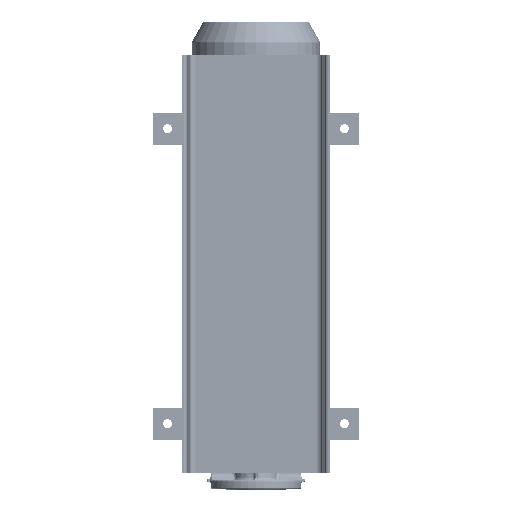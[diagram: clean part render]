
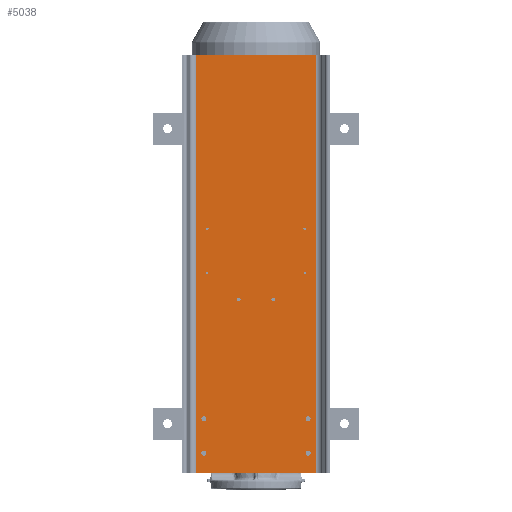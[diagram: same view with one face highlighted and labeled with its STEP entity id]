
A CAD part, left-side view. The second image highlights one B-rep face of the part: STEP entity #5038.
In plain terms, the highlighted planar face has unit normal (-1, 0, 0) as drawn and (0, -1, 0) by its records, which use the part's own axes.
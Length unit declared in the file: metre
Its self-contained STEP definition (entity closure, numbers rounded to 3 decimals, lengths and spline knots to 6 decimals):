
#5038=ADVANCED_FACE('0:34522',(#13912,#13913,#13914,#13915,#13916,#13917,#13918,#13919,#13920,#13921,#13922),#13923,.T.);
#13912=FACE_OUTER_BOUND('',#76546,.T.);
#13913=FACE_BOUND('',#76547,.T.);
#13914=FACE_BOUND('',#76548,.T.);
#13915=FACE_BOUND('',#76549,.T.);
#13916=FACE_BOUND('',#76550,.T.);
#13917=FACE_BOUND('',#76551,.T.);
#13918=FACE_BOUND('',#76552,.T.);
#13919=FACE_BOUND('',#76553,.T.);
#13920=FACE_BOUND('',#76554,.T.);
#13921=FACE_BOUND('',#76555,.T.);
#13922=FACE_BOUND('',#76556,.T.);
#13923=PLANE('',#76557);
#76546=EDGE_LOOP('',(#114722,#114723,#114724,#114725));
#76547=EDGE_LOOP('',(#114726,#114727));
#76548=EDGE_LOOP('',(#114728,#114729));
#76549=EDGE_LOOP('',(#114730,#114731));
#76550=EDGE_LOOP('',(#114732,#114733));
#76551=EDGE_LOOP('',(#114734,#114735));
#76552=EDGE_LOOP('',(#114736,#114737));
#76553=EDGE_LOOP('',(#114738,#114739));
#76554=EDGE_LOOP('',(#114740,#114741));
#76555=EDGE_LOOP('',(#114742,#114743));
#76556=EDGE_LOOP('',(#114744,#114745));
#76557=AXIS2_PLACEMENT_3D('',#114746,#114747,#114748);
#114722=ORIENTED_EDGE('',*,*,#146058,.T.);
#114723=ORIENTED_EDGE('',*,*,#146059,.T.);
#114724=ORIENTED_EDGE('',*,*,#146060,.F.);
#114725=ORIENTED_EDGE('',*,*,#145964,.F.);
#114726=ORIENTED_EDGE('',*,*,#145943,.T.);
#114727=ORIENTED_EDGE('',*,*,#146061,.T.);
#114728=ORIENTED_EDGE('',*,*,#145939,.T.);
#114729=ORIENTED_EDGE('',*,*,#146062,.T.);
#114730=ORIENTED_EDGE('',*,*,#145933,.F.);
#114731=ORIENTED_EDGE('',*,*,#146063,.F.);
#114732=ORIENTED_EDGE('',*,*,#145929,.F.);
#114733=ORIENTED_EDGE('',*,*,#146064,.F.);
#114734=ORIENTED_EDGE('',*,*,#145911,.T.);
#114735=ORIENTED_EDGE('',*,*,#146065,.T.);
#114736=ORIENTED_EDGE('',*,*,#145905,.F.);
#114737=ORIENTED_EDGE('',*,*,#146066,.F.);
#114738=ORIENTED_EDGE('',*,*,#145903,.T.);
#114739=ORIENTED_EDGE('',*,*,#146067,.T.);
#114740=ORIENTED_EDGE('',*,*,#145899,.T.);
#114741=ORIENTED_EDGE('',*,*,#146068,.T.);
#114742=ORIENTED_EDGE('',*,*,#145895,.T.);
#114743=ORIENTED_EDGE('',*,*,#146069,.T.);
#114744=ORIENTED_EDGE('',*,*,#145891,.T.);
#114745=ORIENTED_EDGE('',*,*,#146070,.T.);
#114746=CARTESIAN_POINT('',(-0.121745,-0.0095,0.4));
#114747=DIRECTION('',(0.0,-1.0,0.0));
#114748=DIRECTION('',(0.0,0.0,-1.0));
#145891=EDGE_CURVE('0:35277',#166049,#166053,#166055,.T.);
#145895=EDGE_CURVE('0:35274',#166057,#166061,#166063,.T.);
#145899=EDGE_CURVE('0:35271',#166065,#166069,#166071,.T.);
#145903=EDGE_CURVE('0:35268',#166073,#166077,#166079,.T.);
#145905=EDGE_CURVE('0:35265',#166080,#166083,#166084,.T.);
#145911=EDGE_CURVE('0:35262',#166089,#166093,#166095,.T.);
#145929=EDGE_CURVE('0:35259',#166128,#166131,#166132,.T.);
#145933=EDGE_CURVE('0:35256',#166136,#166139,#166140,.T.);
#145939=EDGE_CURVE('0:35253',#166145,#166149,#166151,.T.);
#145943=EDGE_CURVE('0:35250',#166153,#166157,#166159,.T.);
#145964=EDGE_CURVE('0:34959',#166199,#166201,#166202,.T.);
#146058=EDGE_CURVE('0:35241',#166199,#166354,#166356,.T.);
#146059=EDGE_CURVE('0:35244',#166354,#166357,#166358,.T.);
#146060=EDGE_CURVE('0:35247',#166201,#166357,#166359,.T.);
#146061=EDGE_CURVE('0:35250',#166157,#166153,#166360,.T.);
#146062=EDGE_CURVE('0:35253',#166149,#166145,#166361,.T.);
#146063=EDGE_CURVE('0:35256',#166139,#166136,#166362,.T.);
#146064=EDGE_CURVE('0:35259',#166131,#166128,#166363,.T.);
#146065=EDGE_CURVE('0:35262',#166093,#166089,#166364,.T.);
#146066=EDGE_CURVE('0:35265',#166083,#166080,#166365,.T.);
#146067=EDGE_CURVE('0:35268',#166077,#166073,#166366,.T.);
#146068=EDGE_CURVE('0:35271',#166069,#166065,#166367,.T.);
#146069=EDGE_CURVE('0:35274',#166061,#166057,#166368,.T.);
#146070=EDGE_CURVE('0:35277',#166053,#166049,#166369,.T.);
#166049=VERTEX_POINT('',#216779);
#166053=VERTEX_POINT('',#216784);
#166055=CIRCLE('',#216787,0.0025);
#166057=VERTEX_POINT('',#216789);
#166061=VERTEX_POINT('',#216794);
#166063=CIRCLE('',#216797,0.0025);
#166065=VERTEX_POINT('',#216799);
#166069=VERTEX_POINT('',#216804);
#166071=CIRCLE('',#216807,0.0025);
#166073=VERTEX_POINT('',#216809);
#166077=VERTEX_POINT('',#216814);
#166079=CIRCLE('',#216817,0.0025);
#166080=VERTEX_POINT('',#216818);
#166083=VERTEX_POINT('',#216822);
#166084=CIRCLE('',#216823,0.0034);
#166089=VERTEX_POINT('',#216829);
#166093=VERTEX_POINT('',#216834);
#166095=CIRCLE('',#216837,0.0034);
#166128=VERTEX_POINT('',#216878);
#166131=VERTEX_POINT('',#216882);
#166132=CIRCLE('',#216883,0.0051);
#166136=VERTEX_POINT('',#216888);
#166139=VERTEX_POINT('',#216892);
#166140=CIRCLE('',#216893,0.0051);
#166145=VERTEX_POINT('',#216899);
#166149=VERTEX_POINT('',#216904);
#166151=CIRCLE('',#216907,0.0051);
#166153=VERTEX_POINT('',#216909);
#166157=VERTEX_POINT('',#216914);
#166159=CIRCLE('',#216917,0.0051);
#166199=VERTEX_POINT('',#216967);
#166201=VERTEX_POINT('',#216969);
#166202=LINE('',#216970,#216971);
#166354=VERTEX_POINT('',#217192);
#166356=LINE('',#217194,#217195);
#166357=VERTEX_POINT('',#217196);
#166358=LINE('',#217197,#217198);
#166359=LINE('',#217199,#217200);
#166360=CIRCLE('',#217201,0.0051);
#166361=CIRCLE('',#217202,0.0051);
#166362=CIRCLE('',#217203,0.0051);
#166363=CIRCLE('',#217204,0.0051);
#166364=CIRCLE('',#217205,0.0034);
#166365=CIRCLE('',#217206,0.0034);
#166366=CIRCLE('',#217207,0.0025);
#166367=CIRCLE('',#217208,0.0025);
#166368=CIRCLE('',#217209,0.0025);
#166369=CIRCLE('',#217210,0.0025);
#216779=CARTESIAN_POINT('',(-0.0965,-0.0095,-0.0965));
#216784=CARTESIAN_POINT('',(-0.1015,-0.0095,-0.0965));
#216787=AXIS2_PLACEMENT_3D('',#255366,#255367,#255368);
#216789=CARTESIAN_POINT('',(-0.0965,-0.0095,-0.0065));
#216794=CARTESIAN_POINT('',(-0.1015,-0.0095,-0.0065));
#216797=AXIS2_PLACEMENT_3D('',#255374,#255375,#255376);
#216799=CARTESIAN_POINT('',(0.1015,-0.0095,-0.0965));
#216804=CARTESIAN_POINT('',(0.0965,-0.0095,-0.0965));
#216807=AXIS2_PLACEMENT_3D('',#255382,#255383,#255384);
#216809=CARTESIAN_POINT('',(0.1015,-0.0095,-0.0065));
#216814=CARTESIAN_POINT('',(0.0965,-0.0095,-0.0065));
#216817=AXIS2_PLACEMENT_3D('',#255390,#255391,#255392);
#216818=CARTESIAN_POINT('',(-0.0384,-0.0095,0.0475));
#216822=CARTESIAN_POINT('',(-0.0316,-0.0095,0.0475));
#216823=AXIS2_PLACEMENT_3D('',#255394,#255395,#255396);
#216829=CARTESIAN_POINT('',(0.0384,-0.0095,0.0475));
#216834=CARTESIAN_POINT('',(0.0316,-0.0095,0.0475));
#216837=AXIS2_PLACEMENT_3D('',#255406,#255407,#255408);
#216878=CARTESIAN_POINT('',(-0.1111,-0.0095,0.29));
#216882=CARTESIAN_POINT('',(-0.1009,-0.0095,0.29));
#216883=AXIS2_PLACEMENT_3D('',#255442,#255443,#255444);
#216888=CARTESIAN_POINT('',(-0.1111,-0.0095,0.36));
#216892=CARTESIAN_POINT('',(-0.1009,-0.0095,0.36));
#216893=AXIS2_PLACEMENT_3D('',#255450,#255451,#255452);
#216899=CARTESIAN_POINT('',(0.1111,-0.0095,0.29));
#216904=CARTESIAN_POINT('',(0.1009,-0.0095,0.29));
#216907=AXIS2_PLACEMENT_3D('',#255462,#255463,#255464);
#216909=CARTESIAN_POINT('',(0.1111,-0.0095,0.36));
#216914=CARTESIAN_POINT('',(0.1009,-0.0095,0.36));
#216917=AXIS2_PLACEMENT_3D('',#255470,#255471,#255472);
#216967=CARTESIAN_POINT('',(-0.121745,-0.0095,0.4));
#216969=CARTESIAN_POINT('',(0.121745,-0.0095,0.4));
#216970=CARTESIAN_POINT('',(-0.121745,-0.0095,0.4));
#216971=VECTOR('',#255513,0.243491);
#217192=CARTESIAN_POINT('',(-0.121745,-0.0095,-0.45));
#217194=CARTESIAN_POINT('',(-0.121745,-0.0095,0.4));
#217195=VECTOR('',#255655,0.85);
#217196=CARTESIAN_POINT('',(0.121745,-0.0095,-0.45));
#217197=CARTESIAN_POINT('',(-0.121745,-0.0095,-0.45));
#217198=VECTOR('',#255656,0.243491);
#217199=CARTESIAN_POINT('',(0.121745,-0.0095,0.4));
#217200=VECTOR('',#255657,0.85);
#217201=AXIS2_PLACEMENT_3D('',#255658,#255659,#255660);
#217202=AXIS2_PLACEMENT_3D('',#255661,#255662,#255663);
#217203=AXIS2_PLACEMENT_3D('',#255664,#255665,#255666);
#217204=AXIS2_PLACEMENT_3D('',#255667,#255668,#255669);
#217205=AXIS2_PLACEMENT_3D('',#255670,#255671,#255672);
#217206=AXIS2_PLACEMENT_3D('',#255673,#255674,#255675);
#217207=AXIS2_PLACEMENT_3D('',#255676,#255677,#255678);
#217208=AXIS2_PLACEMENT_3D('',#255679,#255680,#255681);
#217209=AXIS2_PLACEMENT_3D('',#255682,#255683,#255684);
#217210=AXIS2_PLACEMENT_3D('',#255685,#255686,#255687);
#255366=CARTESIAN_POINT('',(-0.099,-0.0095,-0.0965));
#255367=DIRECTION('',(-0.0,1.0,0.0));
#255368=DIRECTION('',(1.0,0.0,0.0));
#255374=CARTESIAN_POINT('',(-0.099,-0.0095,-0.0065));
#255375=DIRECTION('',(-0.0,1.0,0.0));
#255376=DIRECTION('',(1.0,0.0,0.0));
#255382=CARTESIAN_POINT('',(0.099,-0.0095,-0.0965));
#255383=DIRECTION('',(-0.0,1.0,0.0));
#255384=DIRECTION('',(1.0,0.0,0.0));
#255390=CARTESIAN_POINT('',(0.099,-0.0095,-0.0065));
#255391=DIRECTION('',(-0.0,1.0,0.0));
#255392=DIRECTION('',(1.0,0.0,0.0));
#255394=CARTESIAN_POINT('',(-0.035,-0.0095,0.0475));
#255395=DIRECTION('',(0.0,-1.0,0.0));
#255396=DIRECTION('',(-1.0,0.0,0.0));
#255406=CARTESIAN_POINT('',(0.035,-0.0095,0.0475));
#255407=DIRECTION('',(-0.0,1.0,0.0));
#255408=DIRECTION('',(1.0,0.0,0.0));
#255442=CARTESIAN_POINT('',(-0.106,-0.0095,0.29));
#255443=DIRECTION('',(0.0,-1.0,0.0));
#255444=DIRECTION('',(-1.0,0.0,0.0));
#255450=CARTESIAN_POINT('',(-0.106,-0.0095,0.36));
#255451=DIRECTION('',(0.0,-1.0,0.0));
#255452=DIRECTION('',(-1.0,0.0,0.0));
#255462=CARTESIAN_POINT('',(0.106,-0.0095,0.29));
#255463=DIRECTION('',(-0.0,1.0,0.0));
#255464=DIRECTION('',(1.0,0.0,0.0));
#255470=CARTESIAN_POINT('',(0.106,-0.0095,0.36));
#255471=DIRECTION('',(-0.0,1.0,0.0));
#255472=DIRECTION('',(1.0,0.0,0.0));
#255513=DIRECTION('',(1.0,0.0,0.0));
#255655=DIRECTION('',(0.0,0.0,-1.0));
#255656=DIRECTION('',(1.0,0.0,0.0));
#255657=DIRECTION('',(0.0,0.0,-1.0));
#255658=CARTESIAN_POINT('',(0.106,-0.0095,0.36));
#255659=DIRECTION('',(-0.0,1.0,0.0));
#255660=DIRECTION('',(1.0,0.0,0.0));
#255661=CARTESIAN_POINT('',(0.106,-0.0095,0.29));
#255662=DIRECTION('',(-0.0,1.0,0.0));
#255663=DIRECTION('',(1.0,0.0,0.0));
#255664=CARTESIAN_POINT('',(-0.106,-0.0095,0.36));
#255665=DIRECTION('',(0.0,-1.0,0.0));
#255666=DIRECTION('',(-1.0,0.0,0.0));
#255667=CARTESIAN_POINT('',(-0.106,-0.0095,0.29));
#255668=DIRECTION('',(0.0,-1.0,0.0));
#255669=DIRECTION('',(-1.0,0.0,0.0));
#255670=CARTESIAN_POINT('',(0.035,-0.0095,0.0475));
#255671=DIRECTION('',(-0.0,1.0,0.0));
#255672=DIRECTION('',(1.0,0.0,0.0));
#255673=CARTESIAN_POINT('',(-0.035,-0.0095,0.0475));
#255674=DIRECTION('',(0.0,-1.0,0.0));
#255675=DIRECTION('',(-1.0,0.0,0.0));
#255676=CARTESIAN_POINT('',(0.099,-0.0095,-0.0065));
#255677=DIRECTION('',(-0.0,1.0,0.0));
#255678=DIRECTION('',(1.0,0.0,0.0));
#255679=CARTESIAN_POINT('',(0.099,-0.0095,-0.0965));
#255680=DIRECTION('',(-0.0,1.0,0.0));
#255681=DIRECTION('',(1.0,0.0,0.0));
#255682=CARTESIAN_POINT('',(-0.099,-0.0095,-0.0065));
#255683=DIRECTION('',(-0.0,1.0,0.0));
#255684=DIRECTION('',(1.0,0.0,0.0));
#255685=CARTESIAN_POINT('',(-0.099,-0.0095,-0.0965));
#255686=DIRECTION('',(-0.0,1.0,0.0));
#255687=DIRECTION('',(1.0,0.0,0.0));
